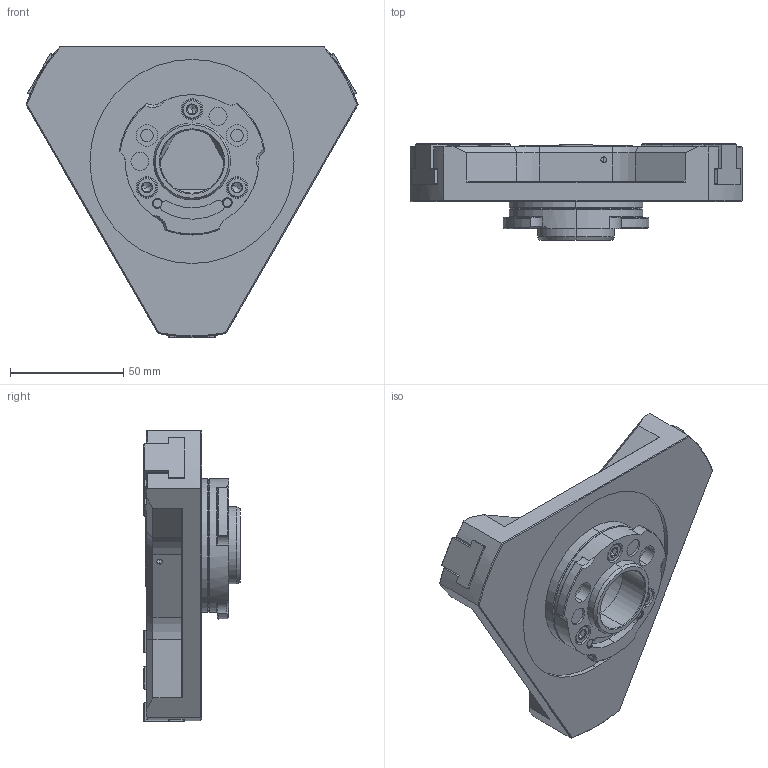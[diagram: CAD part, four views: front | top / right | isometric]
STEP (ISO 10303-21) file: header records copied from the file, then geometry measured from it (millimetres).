
FILE_DESCRIPTION (( 'STEP AP214' ), '1' );
FILE_NAME ('HP-QG30815-Assy-61G841491-20241129-UC.STEP', '2024-11-29T01:04:48', ( '' ), ( '' ), 'SwSTEP 2.0', 'SolidWorks 2022', '' );
FILE_SCHEMA (( 'AUTOMOTIVE_DESIGN' ));
Length unit declared in the file: millimetre
Products named in the file (8): S-SARA^HP-QG30815; BOLT^HP-QG30815; HP-QG30815-Assy-61G841491-20241129-UC; MASTER JAW^HP-QG30815; RING^HP-QG30815; HEIKOU PIN^HP-QG30815; BODY^HP-QG30815; COVER^HP-QG30815
Assembly tree (14 placements, depth 2):
  HP-QG30815-Assy-61G841491-20241129-UC
    BODY^HP-QG30815
    RING^HP-QG30815
    COVER^HP-QG30815
    MASTER JAW^HP-QG30815  x3
    BOLT^HP-QG30815  x3
    S-SARA^HP-QG30815  x3
    HEIKOU PIN^HP-QG30815  x2
Bounding box: 146.69 x 42.5 x 129 mm (x, y, z)
Volume: 242171.4 mm3; surface area: 77569.3 mm2
Topology: 14 solids, 14 shells, 1748 faces, 4803 edges, 3121 vertices
Faces by surface type: plane 1227, cylinder 193, bspline 160, cone 159, torus 9
Entity records: 55106 total; most frequent: CARTESIAN_POINT 16985, ORIENTED_EDGE 8370, DIRECTION 6832, EDGE_CURVE 4185, VECTOR 3364, LINE 3364, VERTEX_POINT 2761, AXIS2_PLACEMENT_3D 1734
